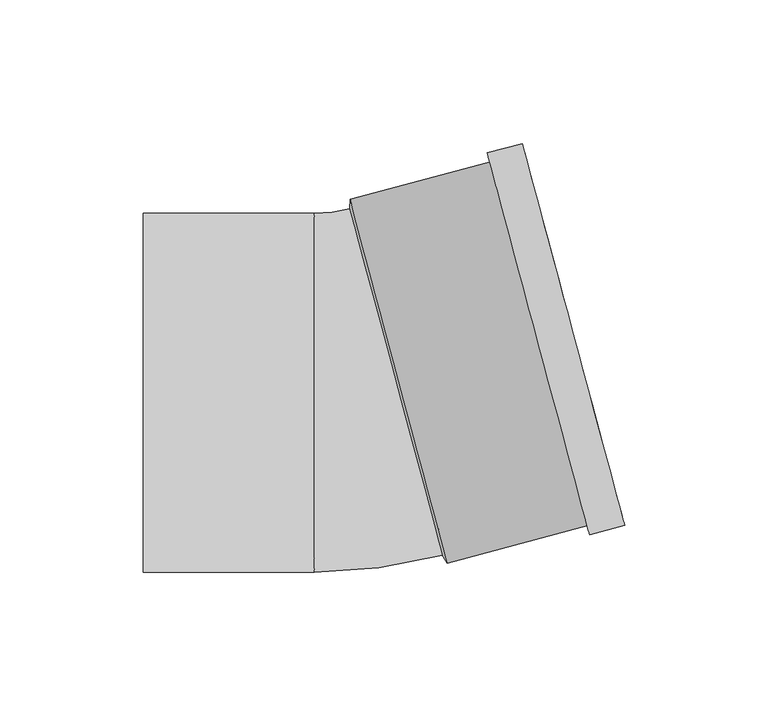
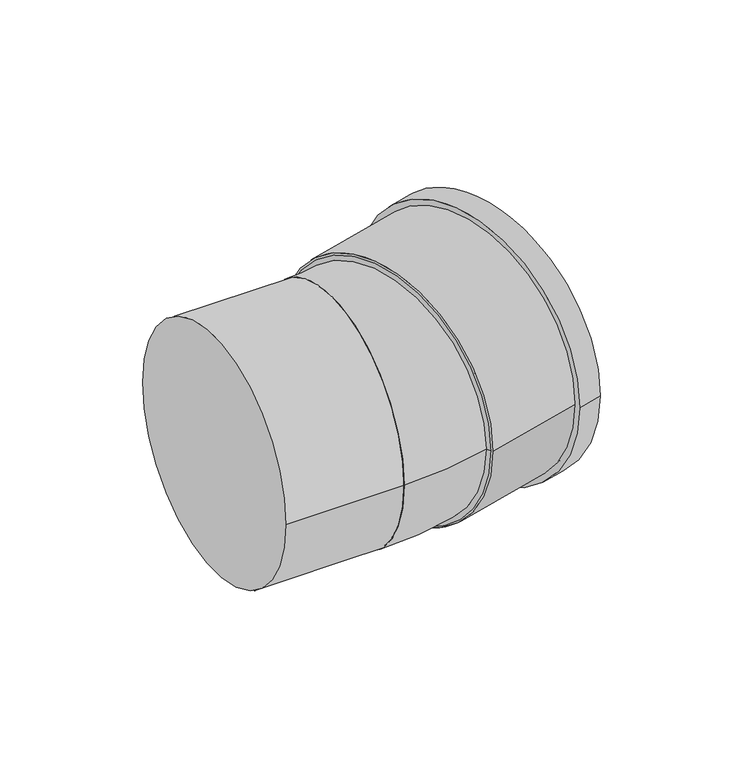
"""IFC4 building model written with IfcOpenShell, lengths in millimetres: pipe fitting geometry, Superdrain HT bend : Superdrain HT Bend."""

from ifc_helpers import new_model, si_unit, point, frame, origin, origin_2d, place, context, project, spatial, polyline, circle_curve, ellipse_curve, trimmed, segment, composite_curve, outline, extrude, source, transform, mapped, element, save
from ifc_brep_helpers import plane_surface, revolved_surface, advanced_brep


def pipe_fitting_b2053ce9(model_context):
    return source(origin(), model_context, "Body", "SolidModel", [
        advanced_brep(
        [(30.1821148, -56.617488, 0.0), (-2.1702658, 64.1232403, 0.0), (-14.5, -62.5, 0.0), (-14.5, 62.5, 0.0)],
        [
            (0, 1, circle_curve(frame((14.0059245, 3.7528762, 0.0), z_axis=(0.9659258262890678, 0.25881904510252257, 0.0), x_axis=(-0.25881904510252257, 0.9659258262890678, 0.0)), 62.5)),
            (1, 0, circle_curve(frame((14.0059245, 3.7528762, 0.0), z_axis=(0.9659258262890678, 0.2588190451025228, 0.0), x_axis=(-0.2588190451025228, 0.9659258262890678, 0.0)), 62.5)),
            (2, 3, circle_curve(frame((-14.5, 0.0, 0.0), z_axis=(-1.0, 0.0, 0.0), x_axis=(0.0, 1.0, 0.0)), 62.5)),
            (3, 2, circle_curve(frame((-14.5, 0.0, 0.0), z_axis=(-1.0, 0.0, 0.0), x_axis=(0.0, 1.0, 0.0)), 62.5)),
            (3, 1, circle_curve(frame((-14.5, 110.1384346, 0.0), z_axis=(0.0, 0.0, 1.0), x_axis=(1.0, 0.0, 0.0)), 47.6384346)),
            (0, 2, circle_curve(frame((-14.5, 110.1384346, 0.0), z_axis=(0.0, 0.0, -1.0), x_axis=(1.0, 0.0, 0.0)), 172.6384346)),
        ],
        [
            plane_surface(frame((14.0059245, 3.7528762, 0.0), z_axis=(0.9659258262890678, 0.2588190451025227, 0.0), x_axis=(0.0, 0.0, -1.0))),
            plane_surface(frame((-14.5, 0.0, 0.0), z_axis=(-1.0, 0.0, 0.0), x_axis=(0.0, 0.0, -1.0))),
            revolved_surface(trimmed(ellipse_curve(frame((95.6384346, 110.1384346, 0.0), z_axis=(0.0, -1.0, 0.0), x_axis=(-1.0, 0.0, 0.0)), 62.5, 62.5), [point((33.1384346, 110.1384346, 0.0))], [point((158.1384346, 110.1384346, 0.0))], True, "CARTESIAN"), (-14.5, 110.1384346, 0.0), (0.0, 0.0, 1.0)),
            revolved_surface(trimmed(ellipse_curve(frame((95.6384346, 110.1384346, 0.0), z_axis=(0.0, -1.0, 0.0), x_axis=(-1.0, 0.0, 0.0)), 62.5, 62.5), [point((158.1384346, 110.1384346, 0.0))], [point((33.1384346, 110.1384346, 0.0))], True, "CARTESIAN"), (-14.5, 110.1384346, 0.0), (0.0, 0.0, 1.0)),
        ],
        [
            (0, [[1, 2]]),
            (1, [[3, 4]]),
            (2, [[-4, 5, -1, 6]]),
            (3, [[-3, -6, -2, -5]]),
        ],
    ),
        extrude(outline(composite_curve([segment(trimmed(circle_curve(origin_2d(), 65.625), [point((0.0, 65.625))], [point((0.0, -65.6249999))], False, "CARTESIAN"), True, "CONTINUOUS"), segment(trimmed(circle_curve(origin_2d(), 65.625), [point((0.0, -65.6249999))], [point((0.0, 65.625))], False, "CARTESIAN"), True, "CONTINUOUS")], self_intersect=False), holes=[composite_curve([segment(trimmed(circle_curve(origin_2d(), 62.5), [point((0.0, 62.5))], [point((0.0, -62.5))], True, "CARTESIAN"), True, "CONTINUOUS"), segment(trimmed(circle_curve(origin_2d(), 62.5), [point((0.0, -62.5))], [point((0.0, 62.5))], True, "CARTESIAN"), True, "CONTINUOUS")], self_intersect=False)]), frame((14.9718503, 4.0116952, 0.0), z_axis=(0.9659258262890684, 0.2588190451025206, 0.0), x_axis=(0.0, 0.0, 1.0)), (0.0, 0.0, 1.0), 63.0),
        extrude(outline(composite_curve([segment(trimmed(circle_curve(origin_2d(), 68.90625), [point((0.0, -68.90625))], [point((0.0, 68.90625))], False, "CARTESIAN"), True, "CONTINUOUS"), segment(trimmed(circle_curve(origin_2d(), 68.90625), [point((0.0, 68.90625))], [point((0.0, -68.90625))], False, "CARTESIAN"), True, "CONTINUOUS")], self_intersect=False), holes=[composite_curve([segment(trimmed(circle_curve(origin_2d(), 62.5), [point((0.0, -62.5))], [point((0.0, 62.5000001))], True, "CARTESIAN"), True, "CONTINUOUS"), segment(trimmed(circle_curve(origin_2d(), 62.5), [point((0.0, 62.5000001))], [point((0.0, -62.5))], True, "CARTESIAN"), True, "CONTINUOUS")], self_intersect=False)]), frame((63.654512, 17.0561751, 0.0), z_axis=(0.9659258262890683, 0.25881904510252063, 0.0), x_axis=(0.0, 0.0, 1.0)), (0.0, 0.0, 1.0), 12.6),
        advanced_brep(
        [(31.9568501, -59.3771872, 0.0), (-2.0131495, 67.4005775, 0.0), (30.1821148, -56.617488, 0.0), (-2.1702658, 64.1232403, 0.0)],
        [
            (0, 1, circle_curve(frame((14.9718503, 4.0116952, 0.0), z_axis=(0.9659258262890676, 0.25881904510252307, 0.0), x_axis=(0.2588190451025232, -0.9659258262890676, 0.0)), 65.625)),
            (1, 0, circle_curve(frame((14.9718503, 4.0116952, 0.0), z_axis=(0.9659258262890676, 0.25881904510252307, 0.0), x_axis=(-0.258819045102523, 0.9659258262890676, 0.0)), 65.625)),
            (2, 3, circle_curve(frame((14.0059245, 3.7528762, 0.0), z_axis=(-0.9659258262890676, -0.25881904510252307, 0.0), x_axis=(-0.258819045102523, 0.9659258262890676, 0.0)), 62.5)),
            (3, 2, circle_curve(frame((14.0059245, 3.7528762, 0.0), z_axis=(-0.9659258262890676, -0.25881904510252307, 0.0), x_axis=(0.2588190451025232, -0.9659258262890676, 0.0)), 62.5)),
            (3, 1),
            (0, 2),
        ],
        [
            plane_surface(frame((14.9718503, 4.0116952, 0.0), z_axis=(0.9659258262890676, 0.25881904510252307, 0.0), x_axis=(0.0, 0.0, -1.0))),
            plane_surface(frame((14.0059245, 3.7528762, 0.0), z_axis=(-0.9659258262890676, -0.25881904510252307, 0.0), x_axis=(0.0, 0.0, -1.0))),
            revolved_surface(polyline([(-2.1702658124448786, 64.12324019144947, 0.0), (-2.0131495, 67.4005775, 0.0)]), (-5.312592, -1.4235047, 0.0), (0.9659258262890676, 0.25881904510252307, 0.0)),
            revolved_surface(polyline([(30.1821148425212, -56.61748815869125, 0.0), (31.95685021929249, -59.37718738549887, 0.0)]), (-5.312592, -1.4235047, 0.0), (0.9659258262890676, 0.25881904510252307, 0.0)),
        ],
        [
            (0, [[1, 2]]),
            (1, [[3, 4]]),
            (2, [[-4, 5, -1, 6]]),
            (3, [[-3, -6, -2, -5]]),
        ],
    ),
        extrude(outline(composite_curve([segment(trimmed(circle_curve(origin_2d(), 62.5), [point((-62.5, 0.0))], [point((62.5, 0.0))], False, "CARTESIAN"), True, "CONTINUOUS"), segment(trimmed(circle_curve(origin_2d(), 62.5), [point((62.5, 0.0))], [point((-62.5, 0.0))], False, "CARTESIAN"), True, "CONTINUOUS")], self_intersect=False)), frame((-74.0, 0.0, 0.0), z_axis=(1.0, 0.0, 0.0), x_axis=(0.0, 1.0, 0.0)), (0.0, 0.0, 1.0), 59.5),
    ])


if __name__ == "__main__":
    model = new_model("IFC4")
    model_context = context("Model", 3, world=origin())
    ifc_project = project(units=[si_unit("LENGTHUNIT", "METRE", prefix="MILLI")], contexts=[model_context])
    site = spatial("IfcSite", under=ifc_project)
    building = spatial("IfcBuilding", under=site)
    placement = place(None, origin())
    pipe_fitting_shape = pipe_fitting_b2053ce9(model_context)
    element("IfcPipeFitting", 1, ObjectType="Superdrain HT bend : Superdrain HT Bend", at=placement, inside=building, context=model_context, shape_type="MappedRepresentation", body=[
        mapped(pipe_fitting_shape, transform((0.0, 0.0, 0.0), x_axis=(1.0, 0.0, 0.0), y_axis=(0.0, 1.0, 0.0), z_axis=(0.0, 0.0, 1.0))),
    ])
    save(model, "model.ifc")
